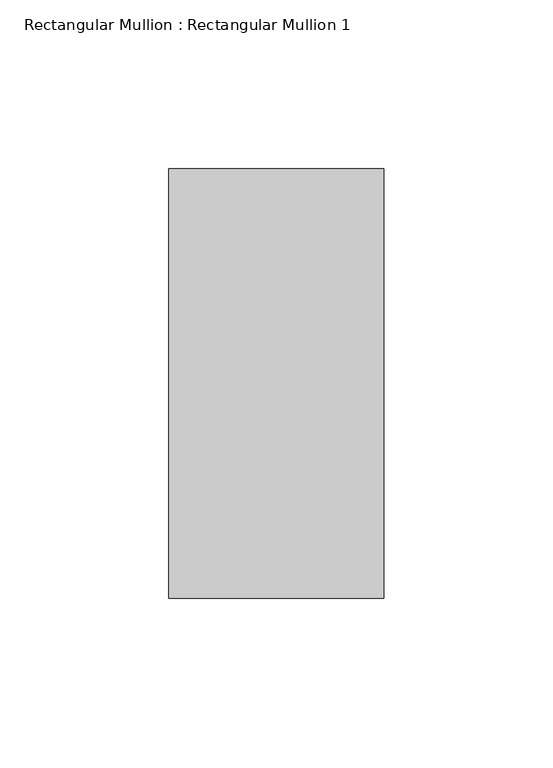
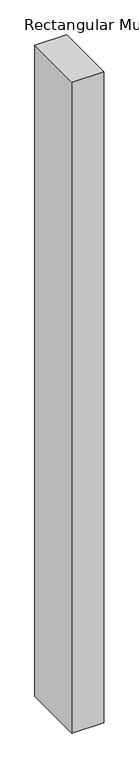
"""IFC4 building model written with IfcOpenShell, lengths in millimetres: member geometry, Rectangular Mullion : Rectangular Mullion 1."""

from ifc_helpers import new_model, si_unit, frame, origin, place, context, project, spatial, polyline, outline, extrude, source, transform, mapped, element, save


def rectangular_mullion_rectangular_mullion_1_74c23462(model_context):
    return source(origin(), model_context, "Body", "SweptSolid", [
        extrude(outline(polyline([(0.0, 63.5), (0.0, -63.5), (-63.5, -63.5), (-63.5, 63.5), (0.0, 63.5)])), frame((0.0, 0.0, -1369.8333331), z_axis=(0.0, 0.0, 1.0), x_axis=(1.0, 0.0, 0.0)), (0.0, 0.0, 1.0), 1369.8333331),
    ])


if __name__ == "__main__":
    model = new_model("IFC4")
    model_context = context("Model", 3, world=origin())
    ifc_project = project(units=[si_unit("LENGTHUNIT", "METRE", prefix="MILLI")], contexts=[model_context])
    site = spatial("IfcSite", under=ifc_project)
    building = spatial("IfcBuilding", under=site)
    placement = place(None, origin())
    rectangular_mullion_rectangular_mullion_1_shape = rectangular_mullion_rectangular_mullion_1_74c23462(model_context)
    element("IfcMember", 1, ObjectType="Rectangular Mullion : Rectangular Mullion 1", at=placement, inside=building, context=model_context, shape_type="MappedRepresentation", body=[
        mapped(rectangular_mullion_rectangular_mullion_1_shape, transform((0.0, 0.0, 0.0), x_axis=(1.0, 0.0, 0.0), y_axis=(0.0, 1.0, 0.0), z_axis=(0.0, 0.0, 1.0))),
    ])
    save(model, "model.ifc")
